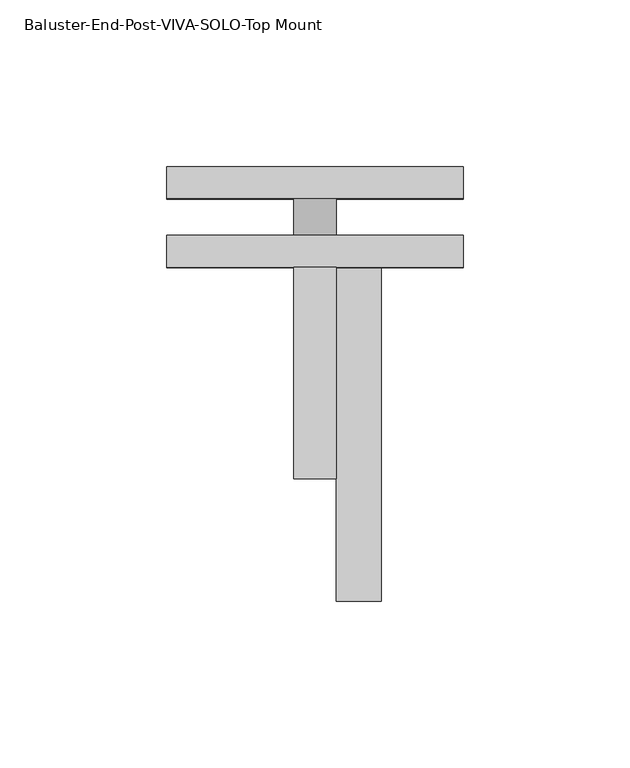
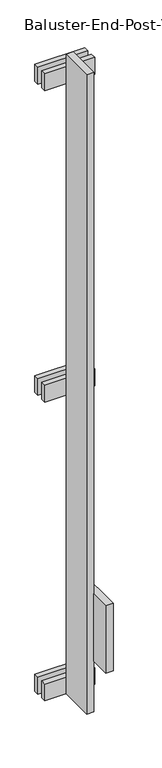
"""IFC4 building model written with IfcOpenShell, lengths in millimetres: proxy geometry, Baluster-End-Post-VIVA-SOLO-Top Mount : ANCHORED TO CONCRETE_FASCIA A1 MOUNT FOLD_STRAIGHT."""

import ifcopenshell
import ifcopenshell.guid

model = None  # the IFC model being written
_history = None  # IfcOwnerHistory: only IFC2X3 demands one
_inside = {}  # id of a spatial element -> (the spatial element, [elements in it])
_under = {}  # id of a project, library or spatial element -> (it, [spatial elements below it])
_declared = {}  # id of a project -> (the project, [libraries it declares])
_typed = {}  # id of a type object -> (the type object, [elements of that type])
_made_of = {}  # id of a material, layer set ... -> (it, [elements and type objects made of it])


def new_model(schema):
    """Start an empty IFC model of exactly this schema.

    Asked for "IFC4X3", IfcOpenShell would pick the latest addendum, in which some entities
    have other attributes; the version numbers below select the first issue.
    IFC2X3 requires an IfcOwnerHistory on every rooted entity: one is made here for all.
    """
    global model, _history
    if schema == "IFC4X3":
        model = ifcopenshell.file(schema_version=(4, 3, 0, 0))
    else:
        model = ifcopenshell.file(schema=schema)
    _inside.clear()
    _under.clear()
    _declared.clear()
    _typed.clear()
    _made_of.clear()
    _history = None
    if model.schema == "IFC2X3":
        org = make("IfcOrganization", Name="unknown")
        user = make(
            "IfcPersonAndOrganization",
            ThePerson=make("IfcPerson", FamilyName="unknown"),
            TheOrganization=org,
        )
        app = make(
            "IfcApplication",
            ApplicationDeveloper=org,
            Version="unknown",
            ApplicationFullName="unknown",
            ApplicationIdentifier="unknown",
        )
        _history = make(
            "IfcOwnerHistory",
            OwningUser=user,
            OwningApplication=app,
            ChangeAction="ADDED",
            CreationDate=0,
        )
    return model


def make(cls, **values):
    """One entity of the class cls with the attributes given. An attribute that is None is left unset."""
    return model.create_entity(
        cls, **{name: value for name, value in values.items() if value is not None}
    )


def rooted(cls, **values):
    """An entity with a GlobalId (a new one), such as an element, a storey or a relation."""
    return make(cls, GlobalId=ifcopenshell.guid.new(), OwnerHistory=_history, **values)


def si_unit(unit_type, name, prefix=None):
    """IfcSIUnit, for example si_unit("LENGTHUNIT", "METRE", prefix="MILLI")."""
    return make("IfcSIUnit", UnitType=unit_type, Prefix=prefix, Name=name)


def assignment(units):
    """IfcUnitAssignment: the units of a project."""
    return None if units is None else make("IfcUnitAssignment", Units=units)


def point(xyz):
    """IfcCartesianPoint."""
    return None if xyz is None else make("IfcCartesianPoint", Coordinates=xyz)


def direction(xyz):
    """IfcDirection."""
    return None if xyz is None else make("IfcDirection", DirectionRatios=xyz)


def frame(location, z_axis=None, x_axis=None):
    """IfcAxis2Placement3D, a coordinate frame: its origin and axes. An axis left out is left unset."""
    return make(
        "IfcAxis2Placement3D",
        Location=point(location),
        Axis=direction(z_axis),
        RefDirection=direction(x_axis),
    )


def frame_2d(location, x_axis=None):
    """IfcAxis2Placement2D, a coordinate frame in the plane: its origin and x axis."""
    return make(
        "IfcAxis2Placement2D", Location=point(location), RefDirection=direction(x_axis)
    )


def origin():
    """The frame at (0, 0, 0) with its axes left unset."""
    return frame((0.0, 0.0, 0.0))


def place(relative_to, where):
    """IfcLocalPlacement: puts the frame where relative to a parent placement (None: the world)."""
    return make(
        "IfcLocalPlacement", PlacementRelTo=relative_to, RelativePlacement=where
    )


def context(
    kind, dimensions, precision=None, world=None, true_north=None, identifier=None
):
    """IfcGeometricRepresentationContext, for example the 3D "Model" context."""
    return make(
        "IfcGeometricRepresentationContext",
        ContextIdentifier=identifier,
        ContextType=kind,
        CoordinateSpaceDimension=dimensions,
        Precision=precision,
        WorldCoordinateSystem=world,
        TrueNorth=true_north,
    )


def project(units=None, contexts=None):
    """IfcProject with its units and contexts."""
    return rooted(
        "IfcProject",
        Name="project",
        RepresentationContexts=contexts,
        UnitsInContext=assignment(units),
    )


def spatial(cls, under=None, at=None, **own):
    """A site, building, storey or space (cls), placed at a placement, below another one or the project."""
    s = rooted(cls, ObjectPlacement=at, **own)
    if under is not None:
        _under.setdefault(under.id(), (under, []))[1].append(s)
    return s


def polyline(points):
    """IfcPolyline through the points."""
    return make("IfcPolyline", Points=[point(p) for p in points])


def circle_curve(where, radius):
    """IfcCircle in the frame where."""
    return make("IfcCircle", Position=where, Radius=radius)


def trimmed(basis, trim1, trim2, sense, master):
    """IfcTrimmedCurve: the piece of a basis curve between two trims."""
    return make(
        "IfcTrimmedCurve",
        BasisCurve=basis,
        Trim1=trim1,
        Trim2=trim2,
        SenseAgreement=sense,
        MasterRepresentation=master,
    )


def segment(curve, same_sense, transition):
    """IfcCompositeCurveSegment."""
    return make(
        "IfcCompositeCurveSegment",
        Transition=transition,
        SameSense=same_sense,
        ParentCurve=curve,
    )


def composite_curve(segments, self_intersect=None):
    """IfcCompositeCurve: segments joined end to end."""
    return make("IfcCompositeCurve", Segments=segments, SelfIntersect=self_intersect)


def outline(outer, holes=None, kind="AREA"):
    """IfcArbitraryClosedProfileDef: a profile drawn as a closed curve; with holes, ...WithVoids."""
    if holes is None:
        return make("IfcArbitraryClosedProfileDef", ProfileType=kind, OuterCurve=outer)
    return make(
        "IfcArbitraryProfileDefWithVoids",
        ProfileType=kind,
        OuterCurve=outer,
        InnerCurves=holes,
    )


def extrude(swept, where, along, depth):
    """IfcExtrudedAreaSolid: the profile swept, set in the frame where, extruded along a direction by depth."""
    return make(
        "IfcExtrudedAreaSolid",
        SweptArea=swept,
        Position=where,
        ExtrudedDirection=direction(along),
        Depth=depth,
    )


def shape(context_of_items, identifier, shape_type, items):
    """IfcShapeRepresentation: the items that make up one representation, for example the "Body"."""
    return make(
        "IfcShapeRepresentation",
        ContextOfItems=context_of_items,
        RepresentationIdentifier=identifier,
        RepresentationType=shape_type,
        Items=items,
    )


def source(mapping_origin, context_of_items, identifier, shape_type, items):
    """IfcRepresentationMap: a shape defined once, which mapped items show again and again."""
    return make(
        "IfcRepresentationMap",
        MappingOrigin=mapping_origin,
        MappedRepresentation=shape(context_of_items, identifier, shape_type, items),
    )


def transform(
    local_origin,
    x_axis=None,
    y_axis=None,
    z_axis=None,
    scale=None,
    scale2=None,
    scale3=None,
    uniform=True,
):
    """IfcCartesianTransformationOperator3D, or its non-uniform kind. x_axis, y_axis, z_axis: its Axis1, 2, 3."""
    if uniform:
        return make(
            "IfcCartesianTransformationOperator3D",
            Axis1=direction(x_axis),
            Axis2=direction(y_axis),
            LocalOrigin=point(local_origin),
            Scale=scale,
            Axis3=direction(z_axis),
        )
    return make(
        "IfcCartesianTransformationOperator3DnonUniform",
        Axis1=direction(x_axis),
        Axis2=direction(y_axis),
        LocalOrigin=point(local_origin),
        Scale=scale,
        Axis3=direction(z_axis),
        Scale2=scale2,
        Scale3=scale3,
    )


def mapped(mapping_source, mapping_target):
    """IfcMappedItem: shows the shape of a source again, moved by a transform."""
    return make(
        "IfcMappedItem", MappingSource=mapping_source, MappingTarget=mapping_target
    )


def made_of(thing, what):
    """Note that an element or type object is made of a material, layer set ...; save() writes the relation."""
    if what is not None:
        _made_of.setdefault(what.id(), (what, []))[1].append(thing)
    return thing


def element(
    cls,
    number,
    at=None,
    inside=None,
    cuts=None,
    type_object=None,
    material=None,
    context=None,
    identifier="Body",
    shape_type=None,
    held_by="IfcProductDefinitionShape",
    body=None,
    shapes=None,
    **own,
):
    """One element of the class cls, such as IfcWall. Its Tag is "e" and its number.

    at: its placement. inside: the storey or other place that contains it. cuts: it is an
    opening in that element (IfcRelVoidsElement). A single representation is given by context,
    identifier, shape_type and body (its items); several are given by shapes. held_by: the class
    of the entity that holds the representations. save() writes the other relations.
    """
    e = rooted(cls, Tag="e%d" % number, ObjectPlacement=at, **own)
    if body is not None:
        shapes = [shape(context, identifier, shape_type, body)]
    if shapes is not None:
        e.Representation = make(held_by, Representations=shapes)
    if inside is not None:
        _inside.setdefault(inside.id(), (inside, []))[1].append(e)
    if cuts is not None:
        rooted(
            "IfcRelVoidsElement", RelatingBuildingElement=cuts, RelatedOpeningElement=e
        )
    if type_object is not None:
        _typed.setdefault(type_object.id(), (type_object, []))[1].append(e)
    return made_of(e, material)


def aggregate(whole, parts):
    """IfcRelAggregates: a whole, such as a stair, and the parts it consists of."""
    return rooted("IfcRelAggregates", RelatingObject=whole, RelatedObjects=parts)


def save(model, path):
    """Write the relations noted so far, then the file.

    IfcRelAggregates (storeys below a building ...), IfcRelContainedInSpatialStructure (elements
    in a storey), IfcRelDefinesByType, IfcRelAssociatesMaterial and IfcRelDeclares: one each for
    every whole, place, type object, material and project.
    """
    for whole, parts in _under.values():
        aggregate(whole, parts)
    for where, things in _inside.values():
        rooted(
            "IfcRelContainedInSpatialStructure",
            RelatedElements=things,
            RelatingStructure=where,
        )
    for kind, things in _typed.values():
        rooted("IfcRelDefinesByType", RelatedObjects=things, RelatingType=kind)
    for what, things in _made_of.values():
        rooted("IfcRelAssociatesMaterial", RelatedObjects=things, RelatingMaterial=what)
    for by, libraries in _declared.values():
        rooted("IfcRelDeclares", RelatingContext=by, RelatedDefinitions=libraries)
    model.write(path)


def baluster_end_post_viva_solo_top_mount_54df99a4(model_context):
    return source(origin(), model_context, "Body", "SweptSolid", [
        extrude(outline(composite_curve([segment(trimmed(circle_curve(frame_2d((-294.2018268, 0.0)), 6.35), [point((-294.2018268, 6.35))], [point((-294.2018268, -6.35))], False, "CARTESIAN"), True, "CONTINUOUS"), segment(trimmed(circle_curve(frame_2d((-294.2018268, 0.0)), 6.35), [point((-294.2018268, -6.35))], [point((-294.2018268, 6.35))], False, "CARTESIAN"), True, "CONTINUOUS")], self_intersect=False)), frame((0.0, -63.209781, 0.0), z_axis=(0.0, 1.0, 0.0), x_axis=(0.0, 0.0, 1.0)), (0.0, 0.0, 1.0), 12.7),
        extrude(outline(composite_curve([segment(trimmed(circle_curve(frame_2d((268.5208758, 0.0)), 6.35), [point((268.5208758, 6.35))], [point((268.5208758, -6.35))], False, "CARTESIAN"), True, "CONTINUOUS"), segment(trimmed(circle_curve(frame_2d((268.5208758, 0.0)), 6.35), [point((268.5208758, -6.35))], [point((268.5208758, 6.35))], False, "CARTESIAN"), True, "CONTINUOUS")], self_intersect=False)), frame((0.0, -63.209781, 0.0), z_axis=(0.0, 1.0, 0.0), x_axis=(0.0, 0.0, 1.0)), (0.0, 0.0, 1.0), 12.7),
        extrude(outline(composite_curve([segment(trimmed(circle_curve(frame_2d((854.7429765, 0.0)), 6.35), [point((854.7429765, 6.35))], [point((854.7429765, -6.35))], False, "CARTESIAN"), True, "CONTINUOUS"), segment(trimmed(circle_curve(frame_2d((854.7429765, 0.0)), 6.35), [point((854.7429765, -6.35))], [point((854.7429765, 6.35))], False, "CARTESIAN"), True, "CONTINUOUS")], self_intersect=False)), frame((0.0, -63.209781, 0.0), z_axis=(0.0, 1.0, 0.0), x_axis=(0.0, 0.0, 1.0)), (0.0, 0.0, 1.0), 12.7),
        extrude(outline(polyline([(19.84375, -72.734781), (19.84375, -172.747281), (6.35, -172.747281), (6.35, -72.734781), (19.84375, -72.734781)])), frame((0.0, 0.0, -215.3506464), z_axis=(0.0, 0.0, 1.0), x_axis=(1.0, 0.0, 0.0)), (0.0, 0.0, 1.0), 127.0),
        extrude(outline(polyline([(6.35, -72.734781), (6.35, -136.234781), (-6.35, -136.234781), (-6.35, -72.734781), (6.35, -72.734781)])), frame((0.0, 0.0, -310.2742418), z_axis=(0.0, 0.0, 1.0), x_axis=(1.0, 0.0, 0.0)), (0.0, 0.0, 1.0), 1204.9740667),
        extrude(outline(polyline([(-44.45, -42.5925389), (44.45, -42.5925389), (44.45, -52.1175389), (-44.45, -52.1175389), (-44.45, -42.5925389)])), frame((0.0, 0.0, -310.2742418), z_axis=(0.0, 0.0, 1.0), x_axis=(1.0, 0.0, 0.0)), (0.0, 0.0, 1.0), 31.75),
        extrude(outline(polyline([(-44.45, -63.209781), (44.45, -63.209781), (44.45, -72.734781), (-44.45, -72.734781), (-44.45, -63.209781)])), frame((0.0, 0.0, -310.2742418), z_axis=(0.0, 0.0, 1.0), x_axis=(1.0, 0.0, 0.0)), (0.0, 0.0, 1.0), 31.75),
        extrude(outline(polyline([(-44.45, -42.5925389), (44.45, -42.5925389), (44.45, -52.1175389), (-44.45, -52.1175389), (-44.45, -42.5925389)])), frame((0.0, 0.0, 838.7824344), z_axis=(0.0, 0.0, 1.0), x_axis=(1.0, 0.0, 0.0)), (0.0, 0.0, 1.0), 31.75),
        extrude(outline(polyline([(-44.45, -42.5925389), (44.45, -42.5925389), (44.45, -52.1175389), (-44.45, -52.1175389), (-44.45, -42.5925389)])), frame((0.0, 0.0, 252.4484609), z_axis=(0.0, 0.0, 1.0), x_axis=(1.0, 0.0, 0.0)), (0.0, 0.0, 1.0), 31.75),
        extrude(outline(polyline([(-44.45, -63.209781), (44.45, -63.209781), (44.45, -72.734781), (-44.45, -72.734781), (-44.45, -63.209781)])), frame((0.0, 0.0, 838.7824344), z_axis=(0.0, 0.0, 1.0), x_axis=(1.0, 0.0, 0.0)), (0.0, 0.0, 1.0), 31.75),
        extrude(outline(polyline([(-44.45, -63.209781), (44.45, -63.209781), (44.45, -72.734781), (-44.45, -72.734781), (-44.45, -63.209781)])), frame((0.0, 0.0, 252.4484609), z_axis=(0.0, 0.0, 1.0), x_axis=(1.0, 0.0, 0.0)), (0.0, 0.0, 1.0), 31.75),
    ])


if __name__ == "__main__":
    model = new_model("IFC4")
    model_context = context("Model", 3, world=origin())
    ifc_project = project(units=[si_unit("LENGTHUNIT", "METRE", prefix="MILLI")], contexts=[model_context])
    site = spatial("IfcSite", under=ifc_project)
    building = spatial("IfcBuilding", under=site)
    placement = place(None, origin())
    baluster_end_post_viva_solo_top_mount_shape = baluster_end_post_viva_solo_top_mount_54df99a4(model_context)
    element("IfcBuildingElementProxy", 1, Name="Baluster-End-Post-VIVA-SOLO-Top Mount : ANCHORED TO CONCRETE_FASCIA A1 MOUNT FOLD_STRAIGHT", ObjectType="Baluster-End-Post-VIVA-SOLO-Top Mount : ANCHORED TO CONCRETE_FASCIA A1 MOUNT FOLD_STRAIGHT", at=placement, inside=building, context=model_context, shape_type="MappedRepresentation", body=[
        mapped(baluster_end_post_viva_solo_top_mount_shape, transform((0.0, 0.0, 0.0), x_axis=(1.0, 0.0, 0.0), y_axis=(0.0, 1.0, 0.0), z_axis=(0.0, 0.0, 1.0))),
    ])
    save(model, "model.ifc")
